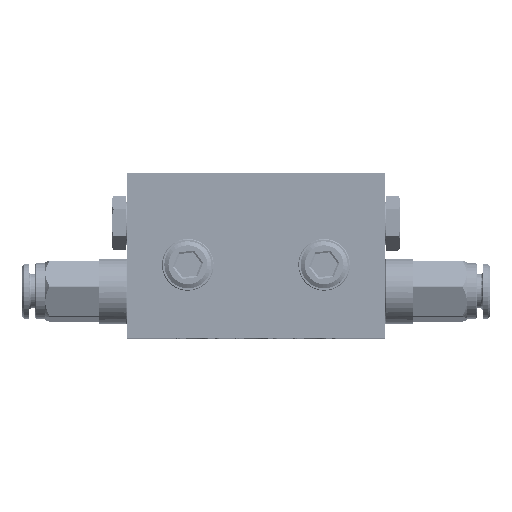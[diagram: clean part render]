
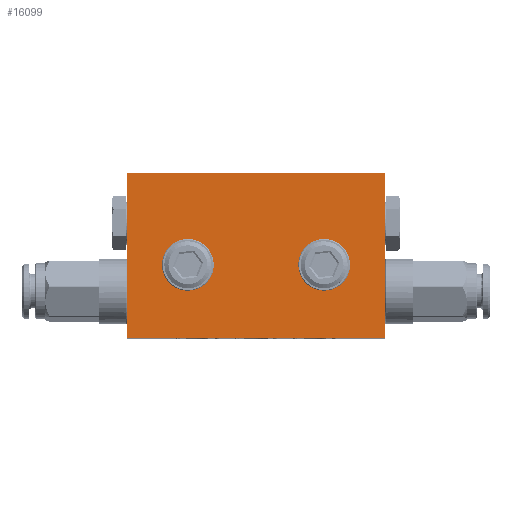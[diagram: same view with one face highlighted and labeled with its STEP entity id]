
A CAD part, top view. The second image highlights one B-rep face of the part: STEP entity #16099.
In plain terms, the highlighted planar face has unit normal (0, 0, 1) as drawn and (0, 0, -1) by its records, which use the part's own axes.
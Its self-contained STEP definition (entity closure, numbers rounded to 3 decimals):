
#14 = AXIS2_PLACEMENT_3D ( 'NONE', #47162, #7026, #46697 ) ;
#1617 = CARTESIAN_POINT ( 'NONE',  ( 0., -35., -4.85 ) ) ;
#1688 = EDGE_CURVE ( 'NONE', #7293, #31241, #38332, .T. ) ;
#2820 = VERTEX_POINT ( 'NONE', #38766 ) ;
#4233 = DIRECTION ( 'NONE',  ( -1., 0., 0. ) ) ;
#4522 = EDGE_CURVE ( 'NONE', #2820, #2820, #38276, .T. ) ;
#5077 = ORIENTED_EDGE ( 'NONE', *, *, #46458, .F. ) ;
#5643 = EDGE_LOOP ( 'NONE', ( #34025 ) ) ;
#7026 = DIRECTION ( 'NONE',  ( 0., 0., -1. ) ) ;
#7293 = VERTEX_POINT ( 'NONE', #43089 ) ;
#7664 = VECTOR ( 'NONE', #37913, 1000. ) ;
#7692 = VERTEX_POINT ( 'NONE', #24566 ) ;
#8306 = CARTESIAN_POINT ( 'NONE',  ( 0., 0., -4.85 ) ) ;
#8652 = DIRECTION ( 'NONE',  ( 0., 0., -1. ) ) ;
#9934 = EDGE_CURVE ( 'NONE', #7692, #7293, #23292, .T. ) ;
#12330 = DIRECTION ( 'NONE',  ( 1., 0., 0. ) ) ;
#12416 = DIRECTION ( 'NONE',  ( -1., 0., 0. ) ) ;
#12691 = VECTOR ( 'NONE', #12416, 1000. ) ;
#12708 = EDGE_LOOP ( 'NONE', ( #28619 ) ) ;
#12710 = FACE_BOUND ( 'NONE', #12708, .T. ) ;
#15439 = CARTESIAN_POINT ( 'NONE',  ( -27.5, -35., -4.85 ) ) ;
#15676 = VECTOR ( 'NONE', #44326, 1000. ) ;
#16099 = ADVANCED_FACE ( 'NONE', ( #37922, #12710, #41998 ), #16355, .F. ) ;
#16355 = PLANE ( 'NONE',  #35441 ) ;
#16579 = DIRECTION ( 'NONE',  ( 1., 0., 0. ) ) ;
#18388 = AXIS2_PLACEMENT_3D ( 'NONE', #37222, #8652, #4233 ) ;
#19051 = ORIENTED_EDGE ( 'NONE', *, *, #9934, .F. ) ;
#19713 = DIRECTION ( 'NONE',  ( 0., 0., 1. ) ) ;
#19942 = CARTESIAN_POINT ( 'NONE',  ( 27.5, 0., -4.85 ) ) ;
#20645 = CARTESIAN_POINT ( 'NONE',  ( 0., 0., -4.85 ) ) ;
#23292 = LINE ( 'NONE', #19942, #7664 ) ;
#24105 = LINE ( 'NONE', #1617, #33785 ) ;
#24566 = CARTESIAN_POINT ( 'NONE',  ( 27.5, -35., -4.85 ) ) ;
#24618 = VERTEX_POINT ( 'NONE', #15439 ) ;
#28619 = ORIENTED_EDGE ( 'NONE', *, *, #4522, .F. ) ;
#29691 = CARTESIAN_POINT ( 'NONE',  ( -27.5, 0., -4.85 ) ) ;
#30618 = LINE ( 'NONE', #29691, #15676 ) ;
#30833 = CIRCLE ( 'NONE', #14, 3.1 ) ;
#30937 = VERTEX_POINT ( 'NONE', #38399 ) ;
#31241 = VERTEX_POINT ( 'NONE', #44818 ) ;
#33785 = VECTOR ( 'NONE', #12330, 1000. ) ;
#34025 = ORIENTED_EDGE ( 'NONE', *, *, #43851, .F. ) ;
#35293 = EDGE_LOOP ( 'NONE', ( #40846, #5077, #40334, #19051 ) ) ;
#35441 = AXIS2_PLACEMENT_3D ( 'NONE', #20645, #19713, #16579 ) ;
#37028 = EDGE_CURVE ( 'NONE', #24618, #7692, #24105, .T. ) ;
#37222 = CARTESIAN_POINT ( 'NONE',  ( 14.5, -15.5, -4.85 ) ) ;
#37913 = DIRECTION ( 'NONE',  ( 0., 1., 0. ) ) ;
#37922 = FACE_BOUND ( 'NONE', #5643, .T. ) ;
#38276 = CIRCLE ( 'NONE', #18388, 3.1 ) ;
#38332 = LINE ( 'NONE', #8306, #12691 ) ;
#38399 = CARTESIAN_POINT ( 'NONE',  ( -11.4, -15.5, -4.85 ) ) ;
#38766 = CARTESIAN_POINT ( 'NONE',  ( 11.4, -15.5, -4.85 ) ) ;
#40334 = ORIENTED_EDGE ( 'NONE', *, *, #1688, .F. ) ;
#40846 = ORIENTED_EDGE ( 'NONE', *, *, #37028, .F. ) ;
#41998 = FACE_OUTER_BOUND ( 'NONE', #35293, .T. ) ;
#43089 = CARTESIAN_POINT ( 'NONE',  ( 27.5, 0., -4.85 ) ) ;
#43851 = EDGE_CURVE ( 'NONE', #30937, #30937, #30833, .T. ) ;
#44326 = DIRECTION ( 'NONE',  ( 0., -1., 0. ) ) ;
#44818 = CARTESIAN_POINT ( 'NONE',  ( -27.5, 0., -4.85 ) ) ;
#46458 = EDGE_CURVE ( 'NONE', #31241, #24618, #30618, .T. ) ;
#46697 = DIRECTION ( 'NONE',  ( 1., 0., 0. ) ) ;
#47162 = CARTESIAN_POINT ( 'NONE',  ( -14.5, -15.5, -4.85 ) ) ;
